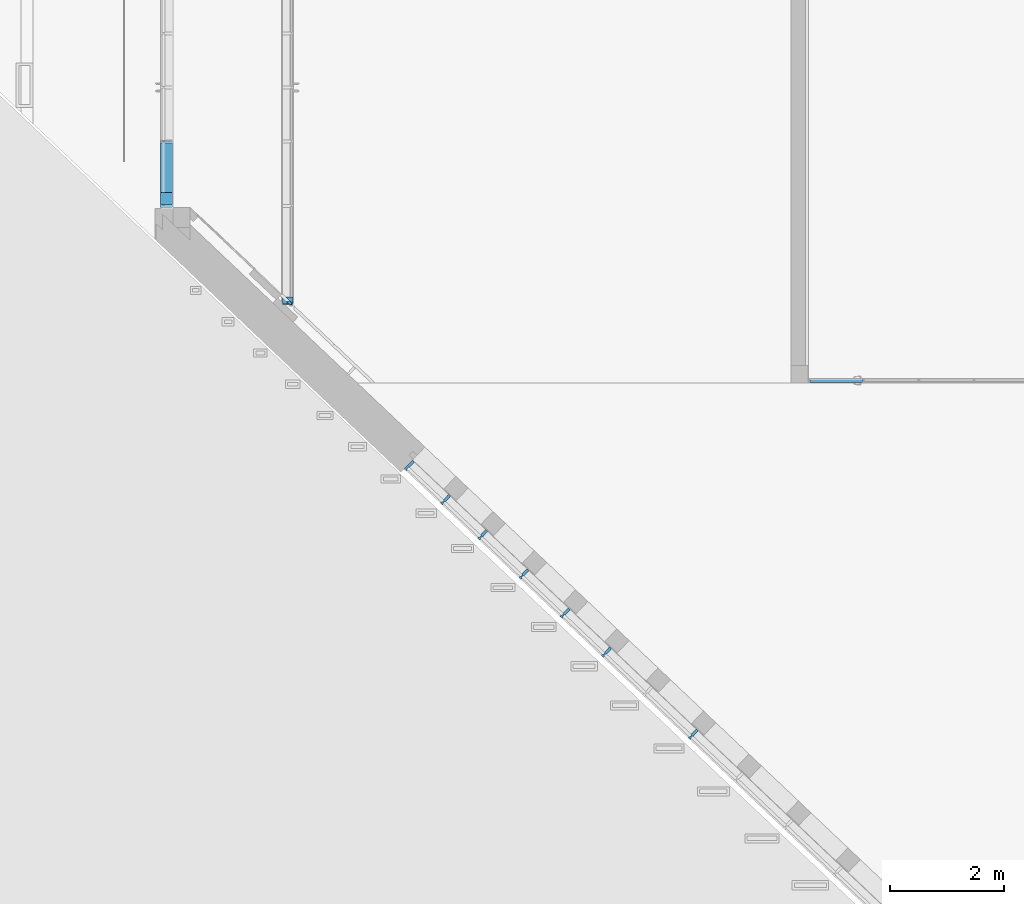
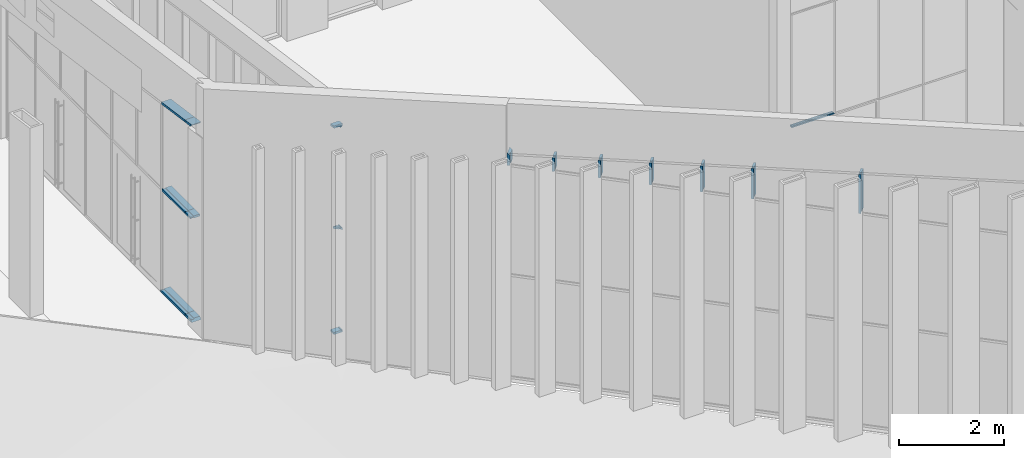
# One storey, part 86 of 246: 18 members, 4 elements without a shape of their own.
"""IFC2X3 building model written with IfcOpenShell, lengths in millimetres."""

import ifcopenshell
import ifcopenshell.guid

model = None  # the IFC model being written
_history = None  # IfcOwnerHistory: only IFC2X3 demands one
_inside = {}  # id of a spatial element -> (the spatial element, [elements in it])
_under = {}  # id of a project, library or spatial element -> (it, [spatial elements below it])
_declared = {}  # id of a project -> (the project, [libraries it declares])
_typed = {}  # id of a type object -> (the type object, [elements of that type])
_made_of = {}  # id of a material, layer set ... -> (it, [elements and type objects made of it])


def new_model(schema):
    """Start an empty IFC model of exactly this schema.

    Asked for "IFC4X3", IfcOpenShell would pick the latest addendum, in which some entities
    have other attributes; the version numbers below select the first issue.
    IFC2X3 requires an IfcOwnerHistory on every rooted entity: one is made here for all.
    """
    global model, _history
    if schema == "IFC4X3":
        model = ifcopenshell.file(schema_version=(4, 3, 0, 0))
    else:
        model = ifcopenshell.file(schema=schema)
    _inside.clear()
    _under.clear()
    _declared.clear()
    _typed.clear()
    _made_of.clear()
    _history = None
    if model.schema == "IFC2X3":
        org = make("IfcOrganization", Name="unknown")
        user = make(
            "IfcPersonAndOrganization",
            ThePerson=make("IfcPerson", FamilyName="unknown"),
            TheOrganization=org,
        )
        app = make(
            "IfcApplication",
            ApplicationDeveloper=org,
            Version="unknown",
            ApplicationFullName="unknown",
            ApplicationIdentifier="unknown",
        )
        _history = make(
            "IfcOwnerHistory",
            OwningUser=user,
            OwningApplication=app,
            ChangeAction="ADDED",
            CreationDate=0,
        )
    return model


def make(cls, **values):
    """One entity of the class cls with the attributes given. An attribute that is None is left unset."""
    return model.create_entity(
        cls, **{name: value for name, value in values.items() if value is not None}
    )


def entity(cls, *values):
    """Any entity or typed value of the class cls, its attributes in the order of the schema. None: left unset."""
    e = model.create_entity(cls)
    for i, value in enumerate(values):
        if value is not None:
            e[i] = value
    return e


def rooted(cls, **values):
    """An entity with a GlobalId (a new one), such as an element, a storey or a relation."""
    return make(cls, GlobalId=ifcopenshell.guid.new(), OwnerHistory=_history, **values)


def si_unit(unit_type, name, prefix=None):
    """IfcSIUnit, for example si_unit("LENGTHUNIT", "METRE", prefix="MILLI")."""
    return make("IfcSIUnit", UnitType=unit_type, Prefix=prefix, Name=name)


def converted_unit(unit_type, name, factor, base, dimensions=None, offset=None):
    """IfcConversionBasedUnit, such as the inch: factor (a typed value) times the base unit."""
    return make(
        "IfcConversionBasedUnit"
        if offset is None
        else "IfcConversionBasedUnitWithOffset",
        ConversionOffset=offset,
        Dimensions=None
        if dimensions is None
        else entity("IfcDimensionalExponents", *dimensions),
        UnitType=unit_type,
        Name=name,
        ConversionFactor=make(
            "IfcMeasureWithUnit", ValueComponent=factor, UnitComponent=base
        ),
    )


def derived_unit(unit_type, elements):
    """IfcDerivedUnit: a product of units, each with its exponent."""
    return make(
        "IfcDerivedUnit",
        Elements=[
            make("IfcDerivedUnitElement", Unit=unit, Exponent=power)
            for unit, power in elements
        ],
        UnitType=unit_type,
    )


def money_unit(currency):
    """IfcMonetaryUnit."""
    return make("IfcMonetaryUnit", Currency=currency)


def assignment(units):
    """IfcUnitAssignment: the units of a project."""
    return None if units is None else make("IfcUnitAssignment", Units=units)


def point(xyz):
    """IfcCartesianPoint."""
    return None if xyz is None else make("IfcCartesianPoint", Coordinates=xyz)


def direction(xyz):
    """IfcDirection."""
    return None if xyz is None else make("IfcDirection", DirectionRatios=xyz)


def frame(location, z_axis=None, x_axis=None):
    """IfcAxis2Placement3D, a coordinate frame: its origin and axes. An axis left out is left unset."""
    return make(
        "IfcAxis2Placement3D",
        Location=point(location),
        Axis=direction(z_axis),
        RefDirection=direction(x_axis),
    )


def origin_with_axes():
    """The frame at (0, 0, 0) with the z axis (0, 0, 1) and the x axis (1, 0, 0) written out."""
    return frame((0.0, 0.0, 0.0), z_axis=(0.0, 0.0, 1.0), x_axis=(1.0, 0.0, 0.0))


def place(relative_to, where):
    """IfcLocalPlacement: puts the frame where relative to a parent placement (None: the world)."""
    return make(
        "IfcLocalPlacement", PlacementRelTo=relative_to, RelativePlacement=where
    )


def context(
    kind, dimensions, precision=None, world=None, true_north=None, identifier=None
):
    """IfcGeometricRepresentationContext, for example the 3D "Model" context."""
    return make(
        "IfcGeometricRepresentationContext",
        ContextIdentifier=identifier,
        ContextType=kind,
        CoordinateSpaceDimension=dimensions,
        Precision=precision,
        WorldCoordinateSystem=world,
        TrueNorth=true_north,
    )


def subcontext(parent, identifier, kind, view, scale=None):
    """IfcGeometricRepresentationSubContext, for example "Body" below "Model"."""
    return make(
        "IfcGeometricRepresentationSubContext",
        ContextIdentifier=identifier,
        ContextType=kind,
        ParentContext=parent,
        TargetScale=scale,
        TargetView=view,
    )


def project(units=None, contexts=None):
    """IfcProject with its units and contexts."""
    return rooted(
        "IfcProject",
        Name="project",
        RepresentationContexts=contexts,
        UnitsInContext=assignment(units),
    )


def spatial(cls, under=None, at=None, **own):
    """A site, building, storey or space (cls), placed at a placement, below another one or the project."""
    s = rooted(cls, ObjectPlacement=at, **own)
    if under is not None:
        _under.setdefault(under.id(), (under, []))[1].append(s)
    return s


def faces_of(points, faces, orient=None, outer=None):
    """IfcFace entities. A face is a list of loops; a loop is a list of indices into points, from 0.

    orient and outer hold one flag for each loop. By default every Orientation is true, the
    first loop of a face is its IfcFaceOuterBound and the others are IfcFaceBound.
    """
    made = []
    for i, loops in enumerate(faces):
        bounds = []
        for j, loop in enumerate(loops):
            is_outer = j == 0 if outer is None else outer[i][j]
            bounds.append(
                make(
                    "IfcFaceOuterBound" if is_outer else "IfcFaceBound",
                    Bound=make("IfcPolyLoop", Polygon=[points[k] for k in loop]),
                    Orientation=True if orient is None else orient[i][j],
                )
            )
        made.append(make("IfcFace", Bounds=bounds))
    return made


def faceted_brep(points, faces, orient=None, outer=None, voids=None):
    """IfcFacetedBrep: a solid bounded by flat faces; with voids (closed shells), ...WithVoids."""
    shared = [point(p) for p in points]
    hull = make("IfcClosedShell", CfsFaces=faces_of(shared, faces, orient, outer))
    if voids is None:
        return make("IfcFacetedBrep", Outer=hull)
    return make(
        "IfcFacetedBrepWithVoids",
        Outer=hull,
        Voids=[
            make(cls, CfsFaces=faces_of(shared, fs, o, b)) for cls, fs, o, b in voids
        ],
    )


def shape(context_of_items, identifier, shape_type, items):
    """IfcShapeRepresentation: the items that make up one representation, for example the "Body"."""
    return make(
        "IfcShapeRepresentation",
        ContextOfItems=context_of_items,
        RepresentationIdentifier=identifier,
        RepresentationType=shape_type,
        Items=items,
    )


def material(Name=None, Category=None):
    """IfcMaterial."""
    return make("IfcMaterial", Name=Name, Category=Category)


def material_list(materials):
    """IfcMaterialList."""
    return make("IfcMaterialList", Materials=materials)


def made_of(thing, what):
    """Note that an element or type object is made of a material, layer set ...; save() writes the relation."""
    if what is not None:
        _made_of.setdefault(what.id(), (what, []))[1].append(thing)
    return thing


def type_object(cls, material=None, **own):
    """A type object (cls), such as IfcWallType, which elements share."""
    return made_of(rooted(cls, **own), material)


def element(
    cls,
    number,
    at=None,
    inside=None,
    cuts=None,
    type_object=None,
    material=None,
    context=None,
    identifier="Body",
    shape_type=None,
    held_by="IfcProductDefinitionShape",
    body=None,
    shapes=None,
    **own,
):
    """One element of the class cls, such as IfcWall. Its Tag is "e" and its number.

    at: its placement. inside: the storey or other place that contains it. cuts: it is an
    opening in that element (IfcRelVoidsElement). A single representation is given by context,
    identifier, shape_type and body (its items); several are given by shapes. held_by: the class
    of the entity that holds the representations. save() writes the other relations.
    """
    e = rooted(cls, Tag="e%d" % number, ObjectPlacement=at, **own)
    if body is not None:
        shapes = [shape(context, identifier, shape_type, body)]
    if shapes is not None:
        e.Representation = make(held_by, Representations=shapes)
    if inside is not None:
        _inside.setdefault(inside.id(), (inside, []))[1].append(e)
    if cuts is not None:
        rooted(
            "IfcRelVoidsElement", RelatingBuildingElement=cuts, RelatedOpeningElement=e
        )
    if type_object is not None:
        _typed.setdefault(type_object.id(), (type_object, []))[1].append(e)
    return made_of(e, material)


def aggregate(whole, parts):
    """IfcRelAggregates: a whole, such as a stair, and the parts it consists of."""
    return rooted("IfcRelAggregates", RelatingObject=whole, RelatedObjects=parts)


def save(model, path):
    """Write the relations noted so far, then the file.

    IfcRelAggregates (storeys below a building ...), IfcRelContainedInSpatialStructure (elements
    in a storey), IfcRelDefinesByType, IfcRelAssociatesMaterial and IfcRelDeclares: one each for
    every whole, place, type object, material and project.
    """
    for whole, parts in _under.values():
        aggregate(whole, parts)
    for where, things in _inside.values():
        rooted(
            "IfcRelContainedInSpatialStructure",
            RelatedElements=things,
            RelatingStructure=where,
        )
    for kind, things in _typed.values():
        rooted("IfcRelDefinesByType", RelatedObjects=things, RelatingType=kind)
    for what, things in _made_of.values():
        rooted("IfcRelAssociatesMaterial", RelatedObjects=things, RelatingMaterial=what)
    for by, libraries in _declared.values():
        rooted("IfcRelDeclares", RelatingContext=by, RelatedDefinitions=libraries)
    model.write(path)


model = new_model("IFC2X3")

# Units and contexts
model_context = context("Model", 3, precision=0.01, world=origin_with_axes(), true_north=direction((0.0, 1.0)))
body_context = subcontext(model_context, "Body", "Model", "MODEL_VIEW")
ifc_project = project(units=[si_unit("LENGTHUNIT", "METRE", prefix="MILLI"), si_unit("AREAUNIT", "SQUARE_METRE"), si_unit("VOLUMEUNIT", "CUBIC_METRE"), converted_unit("PLANEANGLEUNIT", "DEGREE", entity("IfcPlaneAngleMeasure", 0.0174532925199), si_unit("PLANEANGLEUNIT", "RADIAN"), dimensions=[0, 0, 0, 0, 0, 0, 0]), si_unit("SOLIDANGLEUNIT", "STERADIAN"), money_unit("EUR"), converted_unit("TIMEUNIT", "Year", entity("IfcTimeMeasure", 31556926.0), si_unit("TIMEUNIT", "SECOND"), dimensions=[0, 0, 1, 0, 0, 0, 0]), si_unit("MASSUNIT", "GRAM", prefix="KILO"), si_unit("THERMODYNAMICTEMPERATUREUNIT", "DEGREE_CELSIUS"), si_unit("LUMINOUSINTENSITYUNIT", "LUMEN"), si_unit("ENERGYUNIT", "JOULE", prefix="MEGA"), derived_unit("THERMALCONDUCTANCEUNIT", [(si_unit("POWERUNIT", "WATT"), 1), (si_unit("LENGTHUNIT", "METRE"), -1), (si_unit("THERMODYNAMICTEMPERATUREUNIT", "KELVIN"), -1)]), derived_unit("SPECIFICHEATCAPACITYUNIT", [(si_unit("ENERGYUNIT", "JOULE"), 1), (si_unit("MASSUNIT", "GRAM", prefix="KILO"), -1), (si_unit("THERMODYNAMICTEMPERATUREUNIT", "KELVIN"), -1)]), derived_unit("MASSDENSITYUNIT", [(si_unit("MASSUNIT", "GRAM", prefix="KILO"), 1), (si_unit("VOLUMEUNIT", "CUBIC_METRE"), -1)])], contexts=[model_context])

# Site, building, storey
site_placement = place(None, origin_with_axes())
site = spatial("IfcSite", under=ifc_project, at=site_placement, Name="L.Koidula tn 11b", CompositionType="ELEMENT")
building_placement = place(site_placement, origin_with_axes())
building = spatial("IfcBuilding", under=site, at=building_placement, Name="Rakvere Riigigümnaasium", CompositionType="ELEMENT")
storey_placement = place(building_placement, origin_with_axes())
storey = spatial("IfcBuildingStorey", under=building, at=storey_placement, Name="1.korrus 0,00", CompositionType="ELEMENT", Elevation=0.0)

# Curtain wall, members
curtain_wall_type = type_object("IfcCurtainWallType", Name="Curtain Wall Type", PredefinedType="NOTDEFINED")
curtain_wall_1_placement = place(storey_placement, frame((33997.0353268, 45217.6604975, 0.0), z_axis=(0.0, 0.0, 1.0), x_axis=(1.0, 0.0, 0.0)))
curtain_wall_1 = element("IfcCurtainWall", 1, at=curtain_wall_1_placement, inside=storey, type_object=curtain_wall_type, Name="KLF-02")
ifc_material_1 = material(Name="Alumiiniumprofiil (RAL 7021)")
member_type_1 = type_object("IfcMemberType", Name="Mullion Frame 50 x 210", PredefinedType="MULLION")
member_1_placement = place(curtain_wall_1_placement, frame((-10453.8273002, 9903.40824051, 4950.00031279), z_axis=(0.0, 0.0, 1.0), x_axis=(0.725960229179, -0.687736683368, 0.0)))
member_1 = element("IfcMember", 2, at=member_1_placement, type_object=member_type_1, material=ifc_material_1, Name="KLF-54-Profiilid", ObjectType="MULLION", context=body_context, shape_type="Brep", body=[
    faceted_brep([(-12.0, 26.0, 909.529733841), (-12.0, -26.0, 909.529733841), (-25.0, -26.0, 908.247960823), (-25.0, -56.0, 908.247960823), (25.0, -56.0, 913.177857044), (25.0, -26.0, 913.177857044), (12.0, -26.0, 911.896084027), (12.0, 26.0, 911.896084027), (25.0, 26.0, 913.177857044), (25.0, 154.0, 913.177857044), (-25.0, 154.0, 908.247960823), (-25.0, 26.0, 908.247960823), (-12.0, 26.0, 0.0), (-12.0, -26.0, 0.0), (-25.0, -26.0, 0.0), (-25.0, -56.0, 0.0), (25.0, -56.0, 0.0), (25.0, -26.0, 0.0), (12.0, -26.0, 0.0), (12.0, 26.0, 0.0), (25.0, 26.0, 0.0), (25.0, 154.0, 0.0), (-25.0, 154.0, 0.0), (-25.0, 26.0, 0.0)], [[[0, 1, 2, 3, 4, 5, 6, 7, 8, 9, 10, 11]], [[0, 12, 13, 1]], [[1, 13, 14, 2]], [[14, 15, 3, 2]], [[3, 15, 16, 4]], [[17, 5, 4, 16]], [[5, 17, 18, 6]], [[7, 6, 18, 19]], [[8, 7, 19, 20]], [[8, 20, 21, 9]], [[9, 21, 22, 10]], [[11, 10, 22, 23]], [[11, 23, 12, 0]], [[13, 12, 23, 22, 21, 20, 19, 18, 17, 16, 15, 14]]]),
])
member_2_placement = place(curtain_wall_1_placement, frame((-11978.3437815, 11347.6552756, 4950.00031279), z_axis=(0.0, 0.0, 1.0), x_axis=(0.725960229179, -0.687736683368, 0.0)))
member_2 = element("IfcMember", 3, at=member_2_placement, type_object=member_type_1, material=ifc_material_1, Name="KLF-56-Profiilid", ObjectType="MULLION", context=body_context, shape_type="Brep", body=[
    faceted_brep([(-12.0, 26.0, 702.474092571), (-12.0, -26.0, 702.474092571), (-25.0, -26.0, 701.192319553), (-25.0, -56.0, 701.192319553), (25.0, -56.0, 706.122215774), (25.0, -26.0, 706.122215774), (12.0, -26.0, 704.840442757), (12.0, 26.0, 704.840442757), (25.0, 26.0, 706.122215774), (25.0, 154.0, 706.122215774), (-25.0, 154.0, 701.192319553), (-25.0, 26.0, 701.192319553), (-12.0, 26.0, 0.0), (-12.0, -26.0, 0.0), (-25.0, -26.0, 0.0), (-25.0, -56.0, 0.0), (25.0, -56.0, 0.0), (25.0, -26.0, 0.0), (12.0, -26.0, 0.0), (12.0, 26.0, 0.0), (25.0, 26.0, 0.0), (25.0, 154.0, 0.0), (-25.0, 154.0, 0.0), (-25.0, 26.0, 0.0)], [[[0, 1, 2, 3, 4, 5, 6, 7, 8, 9, 10, 11]], [[0, 12, 13, 1]], [[1, 13, 14, 2]], [[14, 15, 3, 2]], [[3, 15, 16, 4]], [[17, 5, 4, 16]], [[5, 17, 18, 6]], [[7, 6, 18, 19]], [[8, 7, 19, 20]], [[8, 20, 21, 9]], [[9, 21, 22, 10]], [[11, 10, 22, 23]], [[11, 23, 12, 0]], [[13, 12, 23, 22, 21, 20, 19, 18, 17, 16, 15, 14]]]),
])
member_3_placement = place(curtain_wall_1_placement, frame((-12704.3040106, 12035.3919589, 4950.00031279), z_axis=(0.0, 0.0, 1.0), x_axis=(0.725960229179, -0.687736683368, 0.0)))
member_3 = element("IfcMember", 4, at=member_3_placement, type_object=member_type_1, material=ifc_material_1, Name="KLF-57-Profiilid", ObjectType="MULLION", context=body_context, shape_type="Brep", body=[
    faceted_brep([(-12.0, 26.0, 603.876168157), (-12.0, -26.0, 603.876168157), (-25.0, -26.0, 602.594395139), (-25.0, -56.0, 602.594395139), (25.0, -56.0, 607.52429136), (25.0, -26.0, 607.52429136), (12.0, -26.0, 606.242518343), (12.0, 26.0, 606.242518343), (25.0, 26.0, 607.52429136), (25.0, 154.0, 607.52429136), (-25.0, 154.0, 602.594395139), (-25.0, 26.0, 602.594395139), (-12.0, 26.0, 0.0), (-12.0, -26.0, 0.0), (-25.0, -26.0, 0.0), (-25.0, -56.0, 0.0), (25.0, -56.0, 0.0), (25.0, -26.0, 0.0), (12.0, -26.0, 0.0), (12.0, 26.0, 0.0), (25.0, 26.0, 0.0), (25.0, 154.0, 0.0), (-25.0, 154.0, 0.0), (-25.0, 26.0, 0.0)], [[[0, 1, 2, 3, 4, 5, 6, 7, 8, 9, 10, 11]], [[0, 12, 13, 1]], [[1, 13, 14, 2]], [[14, 15, 3, 2]], [[3, 15, 16, 4]], [[17, 5, 4, 16]], [[5, 17, 18, 6]], [[7, 6, 18, 19]], [[8, 7, 19, 20]], [[8, 20, 21, 9]], [[9, 21, 22, 10]], [[11, 10, 22, 23]], [[11, 23, 12, 0]], [[13, 12, 23, 22, 21, 20, 19, 18, 17, 16, 15, 14]]]),
])
member_4_placement = place(curtain_wall_1_placement, frame((-13430.2642398, 12723.1286423, 4950.00031279), z_axis=(0.0, 0.0, 1.0), x_axis=(0.725960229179, -0.687736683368, 0.0)))
member_4 = element("IfcMember", 5, at=member_4_placement, type_object=member_type_1, material=ifc_material_1, Name="KLF-58-Profiilid", ObjectType="MULLION", context=body_context, shape_type="Brep", body=[
    faceted_brep([(-12.0, 26.0, 505.278243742), (-12.0, -26.0, 505.278243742), (-25.0, -26.0, 503.996470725), (-25.0, -56.0, 503.996470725), (25.0, -56.0, 508.926366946), (25.0, -26.0, 508.926366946), (12.0, -26.0, 507.644593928), (12.0, 26.0, 507.644593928), (25.0, 26.0, 508.926366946), (25.0, 154.0, 508.926366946), (-25.0, 154.0, 503.996470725), (-25.0, 26.0, 503.996470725), (-12.0, 26.0, 0.0), (-12.0, -26.0, 0.0), (-25.0, -26.0, 0.0), (-25.0, -56.0, 0.0), (25.0, -56.0, 0.0), (25.0, -26.0, 0.0), (12.0, -26.0, 0.0), (12.0, 26.0, 0.0), (25.0, 26.0, 0.0), (25.0, 154.0, 0.0), (-25.0, 154.0, 0.0), (-25.0, 26.0, 0.0)], [[[0, 1, 2, 3, 4, 5, 6, 7, 8, 9, 10, 11]], [[0, 12, 13, 1]], [[1, 13, 14, 2]], [[14, 15, 3, 2]], [[3, 15, 16, 4]], [[17, 5, 4, 16]], [[5, 17, 18, 6]], [[7, 6, 18, 19]], [[8, 7, 19, 20]], [[8, 20, 21, 9]], [[9, 21, 22, 10]], [[11, 10, 22, 23]], [[11, 23, 12, 0]], [[13, 12, 23, 22, 21, 20, 19, 18, 17, 16, 15, 14]]]),
])
member_5_placement = place(curtain_wall_1_placement, frame((-14156.224469, 13410.8653257, 4950.00031279), z_axis=(0.0, 0.0, 1.0), x_axis=(0.725960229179, -0.687736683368, 0.0)))
member_5 = element("IfcMember", 6, at=member_5_placement, type_object=member_type_1, material=ifc_material_1, Name="KLF-59-Profiilid", ObjectType="MULLION", context=body_context, shape_type="Brep", body=[
    faceted_brep([(-12.0, 26.0, 406.680319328), (-12.0, -26.0, 406.680319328), (-25.0, -26.0, 405.398546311), (-25.0, -56.0, 405.398546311), (25.0, -56.0, 410.328442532), (25.0, -26.0, 410.328442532), (12.0, -26.0, 409.046669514), (12.0, 26.0, 409.046669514), (25.0, 26.0, 410.328442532), (25.0, 154.0, 410.328442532), (-25.0, 154.0, 405.398546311), (-25.0, 26.0, 405.398546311), (-12.0, 26.0, 0.0), (-12.0, -26.0, 0.0), (-25.0, -26.0, 0.0), (-25.0, -56.0, 0.0), (25.0, -56.0, 0.0), (25.0, -26.0, 0.0), (12.0, -26.0, 0.0), (12.0, 26.0, 0.0), (25.0, 26.0, 0.0), (25.0, 154.0, 0.0), (-25.0, 154.0, 0.0), (-25.0, 26.0, 0.0)], [[[0, 1, 2, 3, 4, 5, 6, 7, 8, 9, 10, 11]], [[0, 12, 13, 1]], [[1, 13, 14, 2]], [[14, 15, 3, 2]], [[3, 15, 16, 4]], [[17, 5, 4, 16]], [[5, 17, 18, 6]], [[7, 6, 18, 19]], [[8, 7, 19, 20]], [[8, 20, 21, 9]], [[9, 21, 22, 10]], [[11, 10, 22, 23]], [[11, 23, 12, 0]], [[13, 12, 23, 22, 21, 20, 19, 18, 17, 16, 15, 14]]]),
])
member_6_placement = place(curtain_wall_1_placement, frame((-14809.5886752, 14029.8283407, 4950.00031279), z_axis=(0.0, 0.0, 1.0), x_axis=(0.725960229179, -0.687736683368, 0.0)))
member_6 = element("IfcMember", 7, at=member_6_placement, type_object=member_type_1, material=ifc_material_1, Name="KLF-60-Profiilid", ObjectType="MULLION", context=body_context, shape_type="Brep", body=[
    faceted_brep([(-12.0, 26.0, 317.942187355), (-12.0, -26.0, 317.942187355), (-25.0, -26.0, 316.660414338), (-25.0, -56.0, 316.660414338), (25.0, -56.0, 321.590310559), (25.0, -26.0, 321.590310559), (12.0, -26.0, 320.308537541), (12.0, 26.0, 320.308537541), (25.0, 26.0, 321.590310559), (25.0, 154.0, 321.590310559), (-25.0, 154.0, 316.660414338), (-25.0, 26.0, 316.660414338), (-12.0, 26.0, 0.0), (-12.0, -26.0, 0.0), (-25.0, -26.0, 0.0), (-25.0, -56.0, 0.0), (25.0, -56.0, 0.0), (25.0, -26.0, 0.0), (12.0, -26.0, 0.0), (12.0, 26.0, 0.0), (25.0, 26.0, 0.0), (25.0, 154.0, 0.0), (-25.0, 154.0, 0.0), (-25.0, 26.0, 0.0)], [[[0, 1, 2, 3, 4, 5, 6, 7, 8, 9, 10, 11]], [[0, 12, 13, 1]], [[1, 13, 14, 2]], [[14, 15, 3, 2]], [[3, 15, 16, 4]], [[17, 5, 4, 16]], [[5, 17, 18, 6]], [[7, 6, 18, 19]], [[8, 7, 19, 20]], [[8, 20, 21, 9]], [[9, 21, 22, 10]], [[11, 10, 22, 23]], [[11, 23, 12, 0]], [[13, 12, 23, 22, 21, 20, 19, 18, 17, 16, 15, 14]]]),
])
member_type_2 = type_object("IfcMemberType", Name="Boundary Frame 50 x 210", PredefinedType="MULLION")
member_7_placement = place(curtain_wall_1_placement, frame((-15463.0086263, 14648.8441654, 4950.00031279), z_axis=(0.0, 0.0, 1.0), x_axis=(0.725960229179, -0.687736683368, 0.0)))
member_7 = element("IfcMember", 8, at=member_7_placement, type_object=member_type_2, material=ifc_material_1, Name="KLF-09-Profiilid", ObjectType="MULLION", context=body_context, shape_type="Brep", body=[
    faceted_brep([(37.0, 26.0, 247.090819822), (50.0, 26.0, 235.309555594), (50.0, 154.0, 235.309555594), (0.0, 154.0, 280.622110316), (0.0, -56.0, 280.622110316), (50.0, -56.0, 235.309555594), (50.0, -26.0, 235.309555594), (37.0, -26.0, 247.090819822), (37.0, 26.0, 0.0), (50.0, 26.0, 0.0), (50.0, 154.0, 0.0), (0.0, 154.0, 0.0), (0.0, -56.0, 0.0), (50.0, -56.0, 0.0), (50.0, -26.0, 0.0), (37.0, -26.0, 0.0)], [[[0, 1, 2, 3, 4, 5, 6, 7]], [[0, 8, 9, 1]], [[9, 10, 2, 1]], [[10, 11, 3, 2]], [[11, 12, 4, 3]], [[12, 13, 5, 4]], [[6, 5, 13, 14]], [[14, 15, 7, 6]], [[7, 15, 8, 0]], [[8, 15, 14, 13, 12, 11, 10, 9]]]),
])
aggregate(curtain_wall_1, [member_7, member_1, member_2, member_3, member_4, member_5, member_6])

curtain_wall_2_placement = place(storey_placement, frame((14260.0344055, 70945.4519938, -0.000165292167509), z_axis=(0.0, 0.0, 1.0), x_axis=(1.0, 0.0, 0.0)))
curtain_wall_2 = element("IfcCurtainWall", 9, at=curtain_wall_2_placement, inside=storey, type_object=curtain_wall_type, Name="KLF-01A")
member_type_3 = type_object("IfcMemberType", Name="Boundary Frame 50 x 208", PredefinedType="MULLION")
member_8_placement = place(curtain_wall_2_placement, frame((0.0, -5360.0, 0.0), z_axis=(0.0, -1.0, 0.0), x_axis=(0.0, 0.0, 1.0)))
member_8 = element("IfcMember", 10, at=member_8_placement, type_object=member_type_3, material=ifc_material_1, Name="KLF-48 Profiilid", ObjectType="MULLION", context=body_context, shape_type="Brep", body=[
    faceted_brep([(37.0, -27.0, 900.0), (37.0, 27.0, 900.0), (50.0, 27.0, 900.0), (50.0, 48.0, 900.0), (0.0, 48.0, 900.0), (0.0, -160.0, 900.0), (50.0, -160.0, 900.0), (50.0, -27.0, 900.0), (37.0, -27.0, -25.0), (37.0, 27.0, -25.0), (50.0, 27.0, -25.0), (50.0, 48.0, -25.0), (0.0, 48.0, -25.0), (0.0, -160.0, -25.0), (50.0, -160.0, -25.0), (50.0, -27.0, -25.0)], [[[0, 1, 2, 3, 4, 5, 6, 7]], [[1, 0, 8, 9]], [[10, 2, 1, 9]], [[2, 10, 11, 3]], [[12, 4, 3, 11]], [[13, 5, 4, 12]], [[14, 6, 5, 13]], [[15, 7, 6, 14]], [[0, 7, 15, 8]], [[8, 15, 14, 13, 12, 11, 10, 9]]]),
])
member_9_placement = place(curtain_wall_2_placement, frame((0.0, -6260.0, 0.0), z_axis=(0.0, -1.0, 0.0), x_axis=(0.0, 0.0, 1.0)))
member_9 = element("IfcMember", 11, at=member_9_placement, type_object=member_type_3, material=ifc_material_1, Name="KLF-49 Profiilid", ObjectType="MULLION", context=body_context, shape_type="Brep", body=[
    faceted_brep([(37.0, -27.0, 223.107614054), (37.0, 27.0, 223.107614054), (50.0, 27.0, 210.107614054), (50.0, 48.0, 210.107614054), (0.0, 48.0, 260.107614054), (0.0, -160.0, 260.107614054), (50.0, -160.0, 210.107614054), (50.0, -27.0, 210.107614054), (37.0, -27.0, 0.0), (37.0, 27.0, 0.0), (50.0, 27.0, 0.0), (50.0, 48.0, 0.0), (0.0, 48.0, 0.0), (0.0, -160.0, 0.0), (50.0, -160.0, 0.0), (50.0, -27.0, 0.0)], [[[0, 1, 2, 3, 4, 5, 6, 7]], [[1, 0, 8, 9]], [[10, 2, 1, 9]], [[2, 10, 11, 3]], [[12, 4, 3, 11]], [[13, 5, 4, 12]], [[14, 6, 5, 13]], [[15, 7, 6, 14]], [[0, 7, 15, 8]], [[8, 15, 14, 13, 12, 11, 10, 9]]]),
])
member_10_placement = place(curtain_wall_2_placement, frame((0.0, -6260.0, 4557.63989363), z_axis=(0.0, 0.990022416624, -0.140909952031), x_axis=(0.0, -0.140909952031, -0.990022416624)))
member_10 = element("IfcMember", 12, at=member_10_placement, type_object=member_type_3, material=ifc_material_1, Name="KLF-53 Profiilid", ObjectType="MULLION", context=body_context, shape_type="Brep", body=[
    faceted_brep([(37.0, -27.0, 909.07032617), (37.0, 27.0, 909.07032617), (50.0, 27.0, 909.07032617), (50.0, 48.0, 909.07032617), (0.0, 48.0, 909.07032617), (0.0, -160.0, 909.07032617), (50.0, -160.0, 909.07032617), (50.0, -27.0, 909.07032617), (37.0, -27.0, -3.4578140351e-06), (37.0, 27.0, -3.4578140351e-06), (50.0, 27.0, -3.45781397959e-06), (50.0, 48.0, -3.45781397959e-06), (0.0, 48.0, -3.45781397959e-06), (0.0, -160.0, -3.45781397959e-06), (50.0, -160.0, -3.45781397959e-06), (50.0, -27.0, -3.45781397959e-06)], [[[0, 1, 2, 3, 4, 5, 6, 7]], [[1, 0, 8, 9]], [[10, 2, 1, 9]], [[2, 10, 11, 3]], [[12, 4, 3, 11]], [[13, 5, 4, 12]], [[14, 6, 5, 13]], [[15, 7, 6, 14]], [[0, 7, 15, 8]], [[8, 15, 14, 13, 12, 11, 10, 9]]]),
])
member_11_placement = place(curtain_wall_2_placement, frame((0.0, -6520.10737787, 4594.66095616), z_axis=(0.0, 0.990022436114, -0.140909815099), x_axis=(0.0, -0.140909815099, -0.990022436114)))
member_11 = element("IfcMember", 13, at=member_11_placement, type_object=member_type_3, material=ifc_material_1, Name="KLF-52 Profiilid", ObjectType="MULLION", context=body_context, shape_type="Brep", body=[
    faceted_brep([(37.0, -27.0, 262.728774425), (37.0, 27.0, 262.728774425), (50.0, 27.0, 262.728774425), (50.0, 48.0, 262.728774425), (0.0, 48.0, 262.728774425), (0.0, -160.0, 262.728774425), (50.0, -160.0, 262.728774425), (50.0, -27.0, 262.728774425), (37.0, -27.0, 42.6390928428), (37.0, 27.0, 42.6390928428), (50.0, 27.0, 57.6203957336), (50.0, 48.0, 57.6203957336), (0.0, 48.0, 0.0), (0.0, -160.0, 0.0), (50.0, -160.0, 57.6203957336), (50.0, -27.0, 57.6203957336)], [[[0, 1, 2, 3, 4, 5, 6, 7]], [[1, 0, 8, 9]], [[10, 2, 1, 9]], [[2, 10, 11, 3]], [[4, 3, 11, 12]], [[5, 4, 12, 13]], [[6, 5, 13, 14]], [[15, 7, 6, 14]], [[0, 7, 15, 8]], [[8, 15, 14, 13, 12, 11, 10, 9]]]),
])
member_type_4 = type_object("IfcMemberType", Name="Transom Frame 50 x 208", PredefinedType="MULLION")
member_12_placement = place(curtain_wall_2_placement, frame((0.0, -5360.0, 2400.00026018), z_axis=(0.0, -1.0, 0.0), x_axis=(0.0, 0.0, 1.0)))
member_12 = element("IfcMember", 14, at=member_12_placement, type_object=member_type_4, material=ifc_material_1, Name="KLF-01 Profiilid", ObjectType="MULLION", context=body_context, shape_type="Brep", body=[
    faceted_brep([(-12.0, -27.0, 900.0), (-25.0, -27.0, 900.0), (-25.0, -160.0, 900.0), (25.0, -160.0, 900.0), (25.0, -27.0, 900.0), (12.0, -27.0, 900.0), (12.0, 27.0, 900.0), (25.0, 27.0, 900.0), (25.0, 48.0, 900.0), (-25.0, 48.0, 900.0), (-25.0, 27.0, 900.0), (-12.0, 27.0, 900.0), (-12.0, -27.0, 25.0), (-25.0, -27.0, 25.0), (-25.0, -160.0, 25.0), (25.0, -160.0, 25.0), (25.0, -27.0, 25.0), (12.0, -27.0, 25.0), (12.0, 27.0, 25.0), (25.0, 27.0, 25.0), (25.0, 48.0, 25.0), (-25.0, 48.0, 25.0), (-25.0, 27.0, 25.0), (-12.0, 27.0, 25.0)], [[[0, 1, 2, 3, 4, 5, 6, 7, 8, 9, 10, 11]], [[1, 0, 12, 13]], [[1, 13, 14, 2]], [[2, 14, 15, 3]], [[4, 3, 15, 16]], [[4, 16, 17, 5]], [[5, 17, 18, 6]], [[7, 6, 18, 19]], [[19, 20, 8, 7]], [[8, 20, 21, 9]], [[22, 10, 9, 21]], [[11, 10, 22, 23]], [[0, 11, 23, 12]], [[23, 22, 21, 20, 19, 18, 17, 16, 15, 14, 13, 12]]]),
])
member_13_placement = place(curtain_wall_2_placement, frame((0.0, -6260.0, 2400.00026018), z_axis=(0.0, -1.0, 0.0), x_axis=(0.0, 0.0, 1.0)))
member_13 = element("IfcMember", 15, at=member_13_placement, type_object=member_type_4, material=ifc_material_1, Name="KLF-11 Profiilid", ObjectType="MULLION", context=body_context, shape_type="Brep", body=[
    faceted_brep([(-12.0, -27.0, 210.107614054), (-25.0, -27.0, 210.107614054), (-25.0, -160.0, 210.107614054), (25.0, -160.0, 210.107614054), (25.0, -27.0, 210.107614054), (12.0, -27.0, 210.107614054), (12.0, 27.0, 210.107614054), (25.0, 27.0, 210.107614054), (25.0, 48.0, 210.107614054), (-25.0, 48.0, 210.107614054), (-25.0, 27.0, 210.107614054), (-12.0, 27.0, 210.107614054), (-12.0, -27.0, 0.0), (-25.0, -27.0, 0.0), (-25.0, -160.0, 0.0), (25.0, -160.0, 0.0), (25.0, -27.0, 0.0), (12.0, -27.0, 0.0), (12.0, 27.0, 0.0), (25.0, 27.0, 0.0), (25.0, 48.0, 0.0), (-25.0, 48.0, 0.0), (-25.0, 27.0, 0.0), (-12.0, 27.0, 0.0)], [[[0, 1, 2, 3, 4, 5, 6, 7, 8, 9, 10, 11]], [[1, 0, 12, 13]], [[1, 13, 14, 2]], [[3, 2, 14, 15]], [[4, 3, 15, 16]], [[4, 16, 17, 5]], [[5, 17, 18, 6]], [[7, 6, 18, 19]], [[19, 20, 8, 7]], [[9, 8, 20, 21]], [[22, 10, 9, 21]], [[11, 10, 22, 23]], [[0, 11, 23, 12]], [[23, 22, 21, 20, 19, 18, 17, 16, 15, 14, 13, 12]]]),
])
aggregate(curtain_wall_2, [member_8, member_12, member_13, member_9, member_10, member_11])

# Curtain wall, member
curtain_wall_3_placement = place(storey_placement, frame((26572.4999007, 61372.4546496, 0.0), z_axis=(0.0, 0.0, 1.0), x_axis=(1.0, 0.0, 0.0)))
curtain_wall_3 = element("IfcCurtainWall", 16, at=curtain_wall_3_placement, inside=storey, type_object=curtain_wall_type, Name="SKLF-01")
ifc_material_2 = material(Name="Klaasvill")
ifc_material_3 = material(Name="Teras RAL7012")
ifc_material_list = material_list([ifc_material_2, ifc_material_3])
member_type_5 = type_object("IfcMemberType", Name="Siseklaasfassaad-Servaprofiil-Doubleline30 30 x 42", PredefinedType="MULLION")
member_14_placement = place(curtain_wall_3_placement, frame((-972.5, 0.0, 2400.0), z_axis=(1.0, 0.0, 0.0), x_axis=(0.0, 0.0, 1.0)))
member_14 = element("IfcMember", 17, at=member_14_placement, type_object=member_type_5, material=ifc_material_list, Name="Frame-Siseklaasf-103", ObjectType="MULLION", context=body_context, shape_type="Brep", body=[
    faceted_brep([(13.8499999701, 15.000000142, 30.0000193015), (13.8499999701, 15.000000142, 964.651662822), (7.49999990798, 15.000000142, 968.249997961), (7.49999990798, 15.000000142, 30.0000193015), (13.8499999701, 29.0161444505, 30.0000193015), (13.8499999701, 29.0161444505, 964.651662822), (7.49999990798, 29.0161444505, 968.249997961), (7.49999990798, 29.0161444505, 30.0000193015)], [[[0, 1, 2, 3]], [[4, 5, 1, 0]], [[2, 1, 5, 6]], [[3, 2, 6, 7]], [[3, 7, 4, 0]], [[7, 6, 5, 4]]]),
    faceted_brep([(25.004489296, 27.0307503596, 30.0000193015), (25.004489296, 27.0307503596, 958.330782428), (24.987414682, 29.0161444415, 958.340458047), (24.987414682, 29.0161444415, 30.0000193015), (25.742237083, 26.2930025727, 30.0000193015), (25.742237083, 26.2930025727, 957.912725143), (26.7500193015, 26.0229681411, 957.341648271), (27.75780152, 26.2930025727, 956.7705714), (28.4955493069, 27.0307503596, 956.352514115), (28.7655837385, 28.0385325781, 956.199494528), (28.5126239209, 29.0161444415, 956.342838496), (28.5126239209, 29.0161444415, 30.0000193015), (28.7655837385, 28.0385325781, 30.0000193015), (28.4955493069, 27.0307503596, 30.0000193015), (27.75780152, 26.2930025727, 30.0000193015), (26.7500193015, 26.0229681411, 30.0000193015)], [[[0, 1, 2, 3]], [[4, 5, 1, 0]], [[2, 1, 5, 6, 7, 8, 9, 10]], [[3, 2, 10, 11]], [[3, 11, 12, 13, 14, 15, 4, 0]], [[15, 6, 5, 4]], [[14, 7, 6, 15]], [[13, 8, 7, 14]], [[12, 9, 8, 13]], [[11, 10, 9, 12]]]),
    faceted_brep([(7.49999990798, -39.0161445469, 30.0000193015), (7.49999990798, -39.0161445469, 968.249997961), (7.49999990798, -24.9999997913, 968.249997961), (7.49999990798, -24.9999997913, 30.0000193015), (13.8499999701, -39.0161445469, 30.0000193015), (13.8499999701, -39.0161445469, 964.651662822), (13.8499999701, -24.9999997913, 964.651662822), (13.8499999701, -24.9999997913, 30.0000193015)], [[[0, 1, 2, 3]], [[4, 5, 1, 0]], [[2, 1, 5, 6]], [[3, 2, 6, 7]], [[3, 7, 4, 0]], [[7, 6, 5, 4]]]),
    faceted_brep([(24.987414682, -39.0161444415, 30.0000193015), (24.987414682, -39.0161444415, 958.340458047), (25.004489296, -37.0307503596, 958.330782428), (25.004489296, -37.0307503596, 30.0000193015), (28.5126239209, -39.0161444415, 30.0000193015), (28.5126239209, -39.0161444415, 956.342838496), (28.7655837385, -38.0385325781, 956.199494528), (28.4955493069, -37.0307503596, 956.352514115), (27.75780152, -36.2930025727, 956.7705714), (26.7500193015, -36.0229681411, 957.341648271), (25.742237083, -36.2930025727, 957.912725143), (25.742237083, -36.2930025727, 30.0000193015), (26.7500193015, -36.0229681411, 30.0000193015), (27.75780152, -36.2930025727, 30.0000193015), (28.4955493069, -37.0307503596, 30.0000193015), (28.7655837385, -38.0385325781, 30.0000193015)], [[[0, 1, 2, 3]], [[4, 5, 1, 0]], [[2, 1, 5, 6, 7, 8, 9, 10]], [[3, 2, 10, 11]], [[3, 11, 12, 13, 14, 15, 4, 0]], [[15, 6, 5, 4]], [[14, 7, 6, 15]], [[13, 8, 7, 14]], [[12, 9, 8, 13]], [[11, 10, 9, 12]]]),
    faceted_brep([(29.5999996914, -22.0000000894, 30.0000193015), (29.5999996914, -22.0000000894, 955.726658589), (0.0, -22.0000000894, 972.5), (0.0, -22.0000000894, 30.0000193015), (29.5999996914, 12.0000000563, 30.0000193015), (29.5999996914, 12.0000000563, 955.726658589), (0.0, 12.0000000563, 972.5), (1.9999999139, 10.0000001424, 971.366666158), (18.7999996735, 10.0000001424, 961.84666161), (18.7999996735, -20.0000001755, 961.84666161), (1.9999999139, -20.0000001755, 971.366666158), (0.0, 12.0000000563, 30.0000193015), (1.9999999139, 10.0000001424, 30.0000193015), (1.9999999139, -20.0000001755, 30.0000193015), (18.7999996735, -20.0000001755, 30.0000193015), (18.7999996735, 10.0000001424, 30.0000193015)], [[[0, 1, 2, 3]], [[4, 5, 1, 0]], [[2, 1, 5, 6], [7, 8, 9, 10]], [[3, 2, 6, 11]], [[3, 11, 4, 0], [12, 13, 14, 15]], [[11, 6, 5, 4]], [[15, 8, 7, 12]], [[14, 9, 8, 15]], [[13, 10, 9, 14]], [[12, 7, 10, 13]]]),
    faceted_brep([(29.5999996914, 12.0000000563, 30.0000193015), (29.5999996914, 12.0000000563, 955.726658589), (0.0, 12.0, 972.5), (0.0, 12.0, 30.0000193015), (30.0000193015, 12.0, 30.0000193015), (30.0000193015, 12.0, 955.499980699), (30.0000193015, 15.0, 955.499980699), (13.8499999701, 15.000000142, 964.651662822), (7.49999999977, 15.0, 968.249997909), (7.49999999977, 29.0161444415, 968.249997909), (13.8499999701, 29.0161444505, 964.651662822), (24.987414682, 29.0161444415, 958.340458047), (28.5126239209, 29.0161444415, 956.342838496), (30.0000193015, 29.0161444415, 955.499980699), (30.0000193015, 32.0, 955.499980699), (0.0, 32.0, 972.5), (0.0, 32.0, 30.0000193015), (30.0000193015, 32.0, 30.0000193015), (30.0000193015, 29.0161444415, 30.0000193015), (28.5126239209, 29.0161444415, 30.0000193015), (24.987414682, 29.0161444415, 30.0000193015), (13.8499999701, 29.0161444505, 30.0000193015), (7.49999999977, 29.0161444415, 30.0000193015), (7.49999999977, 15.0, 30.0000193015), (13.8499999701, 15.000000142, 30.0000193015), (30.0000193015, 15.0, 30.0000193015)], [[[0, 1, 2, 3]], [[4, 5, 1, 0]], [[2, 1, 5, 6, 7, 8, 9, 10, 11, 12, 13, 14, 15]], [[3, 2, 15, 16]], [[3, 16, 17, 18, 19, 20, 21, 22, 23, 24, 25, 4, 0]], [[25, 6, 5, 4]], [[24, 7, 6, 25]], [[23, 8, 7, 24]], [[22, 9, 8, 23]], [[21, 10, 9, 22]], [[20, 11, 10, 21]], [[19, 12, 11, 20]], [[18, 13, 12, 19]], [[17, 14, 13, 18]], [[16, 15, 14, 17]]]),
    faceted_brep([(0.0, -42.0, 30.0000193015), (0.0, -42.0, 972.5), (0.0, -22.0, 972.5), (0.0, -22.0, 30.0000193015), (30.0000193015, -42.0, 30.0000193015), (30.0000193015, -42.0, 955.499980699), (30.0000193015, -39.0161444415, 955.499980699), (28.5126239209, -39.0161444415, 956.342838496), (24.987414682, -39.0161444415, 958.340458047), (13.8499999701, -39.0161445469, 964.651662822), (7.49999999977, -39.0161444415, 968.249997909), (7.49999999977, -25.0, 968.249997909), (13.8499999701, -24.9999997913, 964.651662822), (30.0000193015, -25.0, 955.499980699), (30.0000193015, -22.0, 955.499980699), (29.5999996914, -22.0000000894, 955.726658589), (29.5999996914, -22.0000000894, 30.0000193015), (30.0000193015, -22.0, 30.0000193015), (30.0000193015, -25.0, 30.0000193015), (13.8499999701, -24.9999997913, 30.0000193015), (7.49999999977, -25.0, 30.0000193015), (7.49999999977, -39.0161444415, 30.0000193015), (13.8499999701, -39.0161445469, 30.0000193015), (24.987414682, -39.0161444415, 30.0000193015), (28.5126239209, -39.0161444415, 30.0000193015), (30.0000193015, -39.0161444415, 30.0000193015)], [[[0, 1, 2, 3]], [[4, 5, 1, 0]], [[2, 1, 5, 6, 7, 8, 9, 10, 11, 12, 13, 14, 15]], [[3, 2, 15, 16]], [[3, 16, 17, 18, 19, 20, 21, 22, 23, 24, 25, 4, 0]], [[25, 6, 5, 4]], [[24, 7, 6, 25]], [[23, 8, 7, 24]], [[22, 9, 8, 23]], [[21, 10, 9, 22]], [[20, 11, 10, 21]], [[19, 12, 11, 20]], [[18, 13, 12, 19]], [[17, 14, 13, 18]], [[16, 15, 14, 17]]]),
])
aggregate(curtain_wall_3, [member_14])

# Curtain wall, members
curtain_wall_4_placement = place(storey_placement, frame((16510.0495753, 70995.4517615, -0.000456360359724), z_axis=(0.0, 0.0, 1.0), x_axis=(1.0, 0.0, 0.0)))
curtain_wall_4 = element("IfcCurtainWall", 18, at=curtain_wall_4_placement, inside=storey, type_object=curtain_wall_type, Name="KLF-01B")
member_type_6 = type_object("IfcMemberType", Name="Boundary Frame 50 x 188", PredefinedType="MULLION")
member_15_placement = place(curtain_wall_4_placement, frame((0.0, -8144.99976778, 0.0), z_axis=(0.0, -1.0, 0.0), x_axis=(0.0, 0.0, 1.0)))
member_15 = element("IfcMember", 19, at=member_15_placement, type_object=member_type_6, material=ifc_material_1, Name="KLF-49 Profiilid", ObjectType="MULLION", context=body_context, shape_type="Brep", body=[
    faceted_brep([(37.0, 15.0, 127.821399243), (50.0, 15.0, 127.821399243), (50.0, 153.0, 127.821399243), (0.0, 153.0, 127.821399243), (0.0, -35.0, 127.821399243), (50.0, -35.0, 127.821399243), (50.0, -15.0, 127.821399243), (37.0, -15.0, 127.821399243), (37.0, 15.0, 0.0), (50.0, 15.0, 0.0), (50.0, 153.0, 0.0), (0.0, 153.0, 0.0), (0.0, -35.0, 0.0), (50.0, -35.0, 0.0), (50.0, -15.0, 0.0), (37.0, -15.0, 0.0)], [[[0, 1, 2, 3, 4, 5, 6, 7]], [[0, 8, 9, 1]], [[9, 10, 2, 1]], [[10, 11, 3, 2]], [[11, 12, 4, 3]], [[12, 13, 5, 4]], [[6, 5, 13, 14]], [[14, 15, 7, 6]], [[7, 15, 8, 0]], [[8, 15, 14, 13, 12, 11, 10, 9]]]),
])
member_16_placement = place(curtain_wall_4_placement, frame((0.0, -8272.82116702, 4850.67788166), z_axis=(0.0, 0.990023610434, -0.140901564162), x_axis=(0.0, -0.140901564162, -0.990023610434)))
member_16 = element("IfcMember", 20, at=member_16_placement, type_object=member_type_6, material=ifc_material_1, Name="KLF-52 Profiilid", ObjectType="MULLION", context=body_context, shape_type="Brep", body=[
    faceted_brep([(37.0, 15.0, 129.10945509), (50.0, 15.0, 129.10945509), (50.0, 153.0, 129.10945509), (0.0, 153.0, 129.10945509), (0.0, -35.0, 129.10945509), (50.0, -35.0, 129.10945509), (50.0, -15.0, 129.10945509), (37.0, -15.0, 129.10945509), (37.0, 15.0, 0.0), (50.0, 15.0, 0.0), (50.0, 153.0, 0.0), (0.0, 153.0, 0.0), (0.0, -35.0, 0.0), (50.0, -35.0, 0.0), (50.0, -15.0, 0.0), (37.0, -15.0, 0.0)], [[[0, 1, 2, 3, 4, 5, 6, 7]], [[0, 8, 9, 1]], [[9, 10, 2, 1]], [[10, 11, 3, 2]], [[11, 12, 4, 3]], [[12, 13, 5, 4]], [[6, 5, 13, 14]], [[14, 15, 7, 6]], [[7, 15, 8, 0]], [[8, 15, 14, 13, 12, 11, 10, 9]]]),
])
member_type_7 = type_object("IfcMemberType", Name="Transom Frame 50 x 188", PredefinedType="MULLION")
member_17_placement = place(curtain_wall_4_placement, frame((0.0, -8144.99976778, 2400.00029107), z_axis=(0.0, -1.0, 0.0), x_axis=(0.0, 0.0, 1.0)))
member_17 = element("IfcMember", 21, at=member_17_placement, type_object=member_type_7, material=ifc_material_1, Name="KLF-60 Profiilid", ObjectType="MULLION", context=body_context, shape_type="Brep", body=[
    faceted_brep([(-12.0, 15.0, 79.5731433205), (-12.0, -15.0, 107.620965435), (-25.0, -15.0, 107.620965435), (-25.0, -35.0, 126.319513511), (25.0, -35.0, 126.319513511), (25.0, -15.0, 107.620965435), (12.0, -15.0, 107.620965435), (12.0, 15.0, 79.5731433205), (25.0, 15.0, 79.5731433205), (25.0, 100.111574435, 0.0), (-25.0, 100.111574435, 0.0), (-25.0, 15.0, 79.5731433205), (-12.0, 15.0, 0.0), (-12.0, -15.0, 0.0), (-25.0, -15.0, 0.0), (-25.0, -35.0, 0.0), (25.0, -35.0, 0.0), (25.0, -15.0, 0.0), (12.0, -15.0, 0.0), (12.0, 15.0, 0.0), (25.0, 15.0, 0.0), (-25.0, 15.0, 0.0)], [[[0, 1, 2, 3, 4, 5, 6, 7, 8, 9, 10, 11]], [[0, 12, 13, 1]], [[1, 13, 14, 2]], [[14, 15, 3, 2]], [[3, 15, 16, 4]], [[17, 5, 4, 16]], [[5, 17, 18, 6]], [[7, 6, 18, 19]], [[8, 7, 19, 20]], [[20, 9, 8]], [[13, 12, 21, 10, 9, 20, 19, 18, 17, 16, 15, 14]], [[11, 10, 21]], [[11, 21, 12, 0]]]),
])
member_type_8 = type_object("IfcMemberType", Name="Corner Frame 50 x 188", PredefinedType="MULLION")
member_18_placement = place(curtain_wall_4_placement, frame((0.0, -8272.82116702, 4793.13992289), z_axis=(0.0, 0.0, 1.0), x_axis=(0.682940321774, 0.730474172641, 0.0)))
member_18 = element("IfcMember", 22, at=member_18_placement, type_object=member_type_8, material=ifc_material_2, Name="KLF-10-Profiilid", ObjectType="MULLION", context=body_context, shape_type="Brep", body=[
    faceted_brep([(-25.0, 99.1096664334, 0.0), (-25.0, 0.0, 0.0), (-25.0, 0.0, 9.63316572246), (25.0, 45.6295782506, 0.0), (25.0, 0.0, 0.0), (25.0, 0.0, 4.4350597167)], [[[0, 1, 2]], [[3, 4, 1, 0]], [[1, 4, 5, 2]], [[0, 2, 5, 3]], [[4, 3, 5]]]),
    faceted_brep([(15.8414957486, -2.30152394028, 0.0), (9.01209253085, 5.00321778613, 0.0), (9.01209253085, 5.00321778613, 5.61089853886), (15.8414957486, -2.30152394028, 5.61089853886), (0.0, -17.1121724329, 0.0), (-15.8414957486, -2.30152394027, 0.0), (-9.01209253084, 5.00321778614, 0.0), (0.0, -3.42243448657, 0.0), (0.0, -3.42243448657, 7.36676320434), (-9.01209253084, 5.00321778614, 7.48473103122), (-15.8414957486, -2.30152394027, 8.9047295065), (0.0, -17.1121724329, 8.69736514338)], [[[0, 1, 2, 3]], [[0, 4, 5, 6, 7, 1]], [[1, 7, 8, 2]], [[3, 2, 8, 9, 10, 11]], [[4, 0, 3, 11]], [[5, 4, 11, 10]], [[6, 5, 10, 9]], [[7, 6, 9, 8]]]),
])
aggregate(curtain_wall_4, [member_17, member_15, member_16, member_18])

save(model, "model.ifc")
